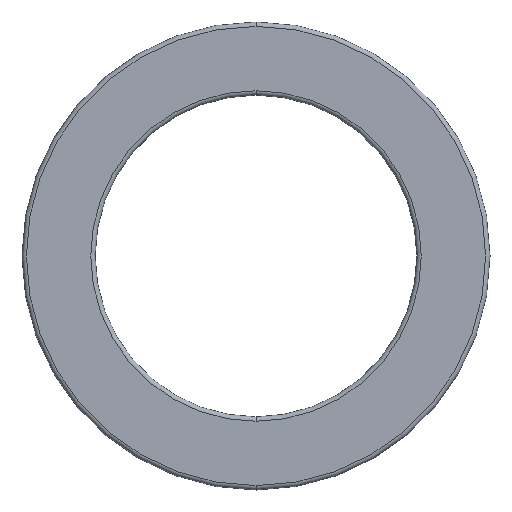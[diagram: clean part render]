
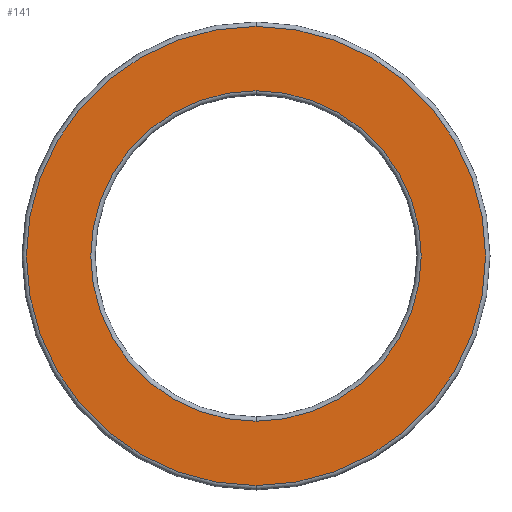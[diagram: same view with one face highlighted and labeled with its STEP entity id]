
A CAD part, front view. The second image highlights one B-rep face of the part: STEP entity #141.
In plain terms, the highlighted planar face has unit normal (0, -1, 0).
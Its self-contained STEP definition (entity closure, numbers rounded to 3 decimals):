
#15 = CARTESIAN_POINT ( 'NONE',  ( 11., 0., 0. ) ) ;
#35 = EDGE_LOOP ( 'NONE', ( #249, #104 ) ) ;
#41 = DIRECTION ( 'NONE',  ( 0., 0., -1. ) ) ;
#65 = ORIENTED_EDGE ( 'NONE', *, *, #439, .T. ) ;
#71 = CARTESIAN_POINT ( 'NONE',  ( 0., 0., -15.7 ) ) ;
#80 = FACE_BOUND ( 'NONE', #87, .T. ) ;
#85 = CARTESIAN_POINT ( 'NONE',  ( 0., 0., 0. ) ) ;
#87 = EDGE_LOOP ( 'NONE', ( #65, #296 ) ) ;
#90 = CARTESIAN_POINT ( 'NONE',  ( 0., 0., 15.7 ) ) ;
#104 = ORIENTED_EDGE ( 'NONE', *, *, #325, .T. ) ;
#141 = ADVANCED_FACE ( 'NONE', ( #448, #80 ), #280, .T. ) ;
#166 = DIRECTION ( 'NONE',  ( 0., 1., 0. ) ) ;
#171 = CIRCLE ( 'NONE', #277, 15.7 ) ;
#173 = EDGE_CURVE ( 'NONE', #194, #336, #271, .T. ) ;
#189 = VERTEX_POINT ( 'NONE', #71 ) ;
#194 = VERTEX_POINT ( 'NONE', #363 ) ;
#197 = DIRECTION ( 'NONE',  ( 0., 0., -1. ) ) ;
#227 = CARTESIAN_POINT ( 'NONE',  ( 0., 0., -11.3 ) ) ;
#233 = DIRECTION ( 'NONE',  ( 0., 1., 0. ) ) ;
#234 = EDGE_CURVE ( 'NONE', #189, #250, #348, .T. ) ;
#249 = ORIENTED_EDGE ( 'NONE', *, *, #234, .T. ) ;
#250 = VERTEX_POINT ( 'NONE', #90 ) ;
#251 = AXIS2_PLACEMENT_3D ( 'NONE', #457, #233, #41 ) ;
#258 = DIRECTION ( 'NONE',  ( 0., 0., -1. ) ) ;
#260 = DIRECTION ( 'NONE',  ( 0., -1., 0. ) ) ;
#271 = CIRCLE ( 'NONE', #444, 11.3 ) ;
#277 = AXIS2_PLACEMENT_3D ( 'NONE', #371, #443, #258 ) ;
#280 = PLANE ( 'NONE',  #342 ) ;
#296 = ORIENTED_EDGE ( 'NONE', *, *, #173, .T. ) ;
#297 = DIRECTION ( 'NONE',  ( 0., 0., -1. ) ) ;
#317 = AXIS2_PLACEMENT_3D ( 'NONE', #85, #328, #370 ) ;
#325 = EDGE_CURVE ( 'NONE', #250, #189, #171, .T. ) ;
#328 = DIRECTION ( 'NONE',  ( 0., -1., 0. ) ) ;
#336 = VERTEX_POINT ( 'NONE', #227 ) ;
#342 = AXIS2_PLACEMENT_3D ( 'NONE', #15, #260, #297 ) ;
#348 = CIRCLE ( 'NONE', #317, 15.7 ) ;
#363 = CARTESIAN_POINT ( 'NONE',  ( 0., 0., 11.3 ) ) ;
#370 = DIRECTION ( 'NONE',  ( 0., 0., -1. ) ) ;
#371 = CARTESIAN_POINT ( 'NONE',  ( 0., 0., 0. ) ) ;
#392 = CARTESIAN_POINT ( 'NONE',  ( 0., 0., 0. ) ) ;
#435 = CIRCLE ( 'NONE', #251, 11.3 ) ;
#439 = EDGE_CURVE ( 'NONE', #336, #194, #435, .T. ) ;
#443 = DIRECTION ( 'NONE',  ( 0., -1., 0. ) ) ;
#444 = AXIS2_PLACEMENT_3D ( 'NONE', #392, #166, #197 ) ;
#448 = FACE_OUTER_BOUND ( 'NONE', #35, .T. ) ;
#457 = CARTESIAN_POINT ( 'NONE',  ( 0., 0., 0. ) ) ;
